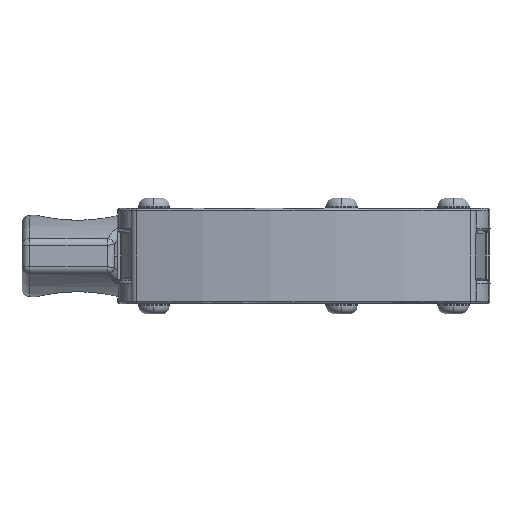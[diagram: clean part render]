
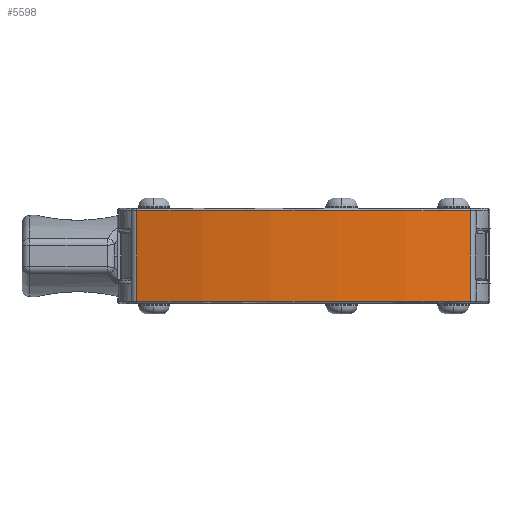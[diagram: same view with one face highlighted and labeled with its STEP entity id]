
A CAD part, left-side view. The second image highlights one B-rep face of the part: STEP entity #5598.
In plain terms, the highlighted cylindrical face has radius 115.5 mm (diameter 231 mm), a partial arc.
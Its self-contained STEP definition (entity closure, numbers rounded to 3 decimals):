
#260 = FACE_OUTER_BOUND ( 'NONE', #16696, .T. ) ;
#1424 = VERTEX_POINT ( 'NONE', #14522 ) ;
#1978 = CARTESIAN_POINT ( 'NONE',  ( -27.707, -32.928, -9.4 ) ) ;
#2538 = CARTESIAN_POINT ( 'NONE',  ( 83., 0., 8.9 ) ) ;
#3224 = DIRECTION ( 'NONE',  ( 1., 0., 0. ) ) ;
#4207 = ORIENTED_EDGE ( 'NONE', *, *, #16823, .T. ) ;
#4784 = DIRECTION ( 'NONE',  ( 1., 0., 0. ) ) ;
#4870 = DIRECTION ( 'NONE',  ( 0., 0., 1. ) ) ;
#5598 = ADVANCED_FACE ( 'NONE', ( #260 ), #11233, .T. ) ;
#6290 = AXIS2_PLACEMENT_3D ( 'NONE', #2538, #7112, #18012 ) ;
#7064 = ORIENTED_EDGE ( 'NONE', *, *, #12072, .F. ) ;
#7112 = DIRECTION ( 'NONE',  ( 0., 0., -1. ) ) ;
#7635 = LINE ( 'NONE', #18247, #12127 ) ;
#7841 = DIRECTION ( 'NONE',  ( 0., 0., 1. ) ) ;
#10127 = AXIS2_PLACEMENT_3D ( 'NONE', #18086, #11795, #3224 ) ;
#11088 = ORIENTED_EDGE ( 'NONE', *, *, #16242, .T. ) ;
#11110 = VECTOR ( 'NONE', #18360, 1000. ) ;
#11233 = CYLINDRICAL_SURFACE ( 'NONE', #17047, 115.5 ) ;
#11631 = EDGE_CURVE ( 'NONE', #1424, #17608, #17896, .T. ) ;
#11795 = DIRECTION ( 'NONE',  ( 0., 0., 1. ) ) ;
#12072 = EDGE_CURVE ( 'NONE', #16098, #17608, #7635, .T. ) ;
#12127 = VECTOR ( 'NONE', #4870, 1000. ) ;
#12274 = ORIENTED_EDGE ( 'NONE', *, *, #11631, .T. ) ;
#12683 = VERTEX_POINT ( 'NONE', #15714 ) ;
#13131 = CIRCLE ( 'NONE', #10127, 115.5 ) ;
#14522 = CARTESIAN_POINT ( 'NONE',  ( -27.707, -32.928, 8.9 ) ) ;
#14742 = CARTESIAN_POINT ( 'NONE',  ( -27.707, 32.928, 8.9 ) ) ;
#15714 = CARTESIAN_POINT ( 'NONE',  ( -27.707, -32.928, -8.9 ) ) ;
#15984 = LINE ( 'NONE', #1978, #11110 ) ;
#16064 = CARTESIAN_POINT ( 'NONE',  ( 83., 0., -9.4 ) ) ;
#16098 = VERTEX_POINT ( 'NONE', #18102 ) ;
#16242 = EDGE_CURVE ( 'NONE', #16098, #12683, #13131, .T. ) ;
#16696 = EDGE_LOOP ( 'NONE', ( #4207, #12274, #7064, #11088 ) ) ;
#16823 = EDGE_CURVE ( 'NONE', #12683, #1424, #15984, .T. ) ;
#17047 = AXIS2_PLACEMENT_3D ( 'NONE', #16064, #7841, #4784 ) ;
#17608 = VERTEX_POINT ( 'NONE', #14742 ) ;
#17896 = CIRCLE ( 'NONE', #6290, 115.5 ) ;
#18012 = DIRECTION ( 'NONE',  ( 1., 0., 0. ) ) ;
#18086 = CARTESIAN_POINT ( 'NONE',  ( 83., 0., -8.9 ) ) ;
#18102 = CARTESIAN_POINT ( 'NONE',  ( -27.707, 32.928, -8.9 ) ) ;
#18247 = CARTESIAN_POINT ( 'NONE',  ( -27.707, 32.928, -9.4 ) ) ;
#18360 = DIRECTION ( 'NONE',  ( 0., 0., 1. ) ) ;
